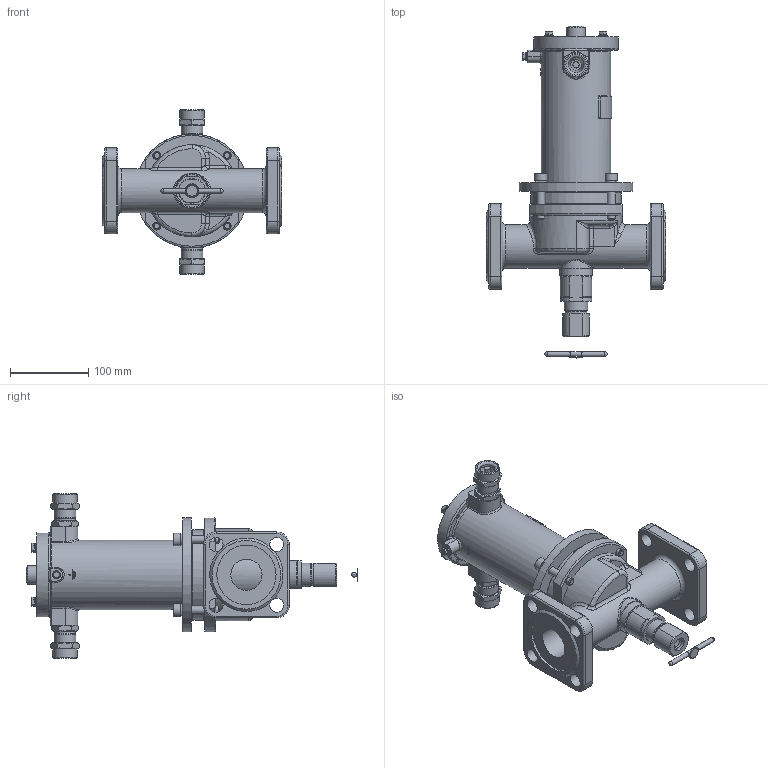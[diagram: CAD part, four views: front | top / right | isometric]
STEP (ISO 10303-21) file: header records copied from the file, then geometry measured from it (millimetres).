
FILE_DESCRIPTION(('STEP AP203'), '1');
FILE_NAME('ÑÅÍÑ-ÏÔ DN40PN25-ÑÂ.stp', '2018-10-09T08:09:01', ('Îðëîâ Å.Â.'), ('ÎÎÎ ÍÏÏ Ñåíñîð'), 'ASCON STEP Converter 1.3', 'Kompas 3D', '');
FILE_SCHEMA(('CONFIG_CONTROL_DESIGN','SUPPORT_RESOURCE_SCHEMA'));
Length unit declared in the file: millimetre
Products named in the file (1): 63
Bounding box: 230 x 425.5 x 211 mm (x, y, z)
Volume: 20160 mm3; surface area: 409024.4 mm2
Topology: 16 solids, 17 shells, 1978 faces, 5254 edges, 3392 vertices
Faces by surface type: cylinder 1009, plane 725, cone 127, torus 50, bspline 47, extrusion 16, sphere 4
Full cylindrical faces by diameter (mm): 3.5 x2, 4.134 x1, 4.917 x4, 5 x1, 6 x11, 6.5 x4, 8 x8, 10 x9, 11 x4, 12 x4, 13 x2, 16 x6, 17 x2, 18 x9, 20 x5, 22 x2, 22.376 x2, 23 x1, 23.5 x2, 24 x3, 24.5 x2, 26 x4, 26.376 x2, 27.8 x1, 28 x3, 28.5 x2, 30 x2, 31 x2, 40 x2, 42 x1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
Entity records: 77083 total; most frequent: CARTESIAN_POINT 26827, DIRECTION 10906, ORIENTED_EDGE 10447, EDGE_CURVE 5225, AXIS2_PLACEMENT_3D 4188, VERTEX_POINT 3392, VECTOR 2530, LINE 2514
